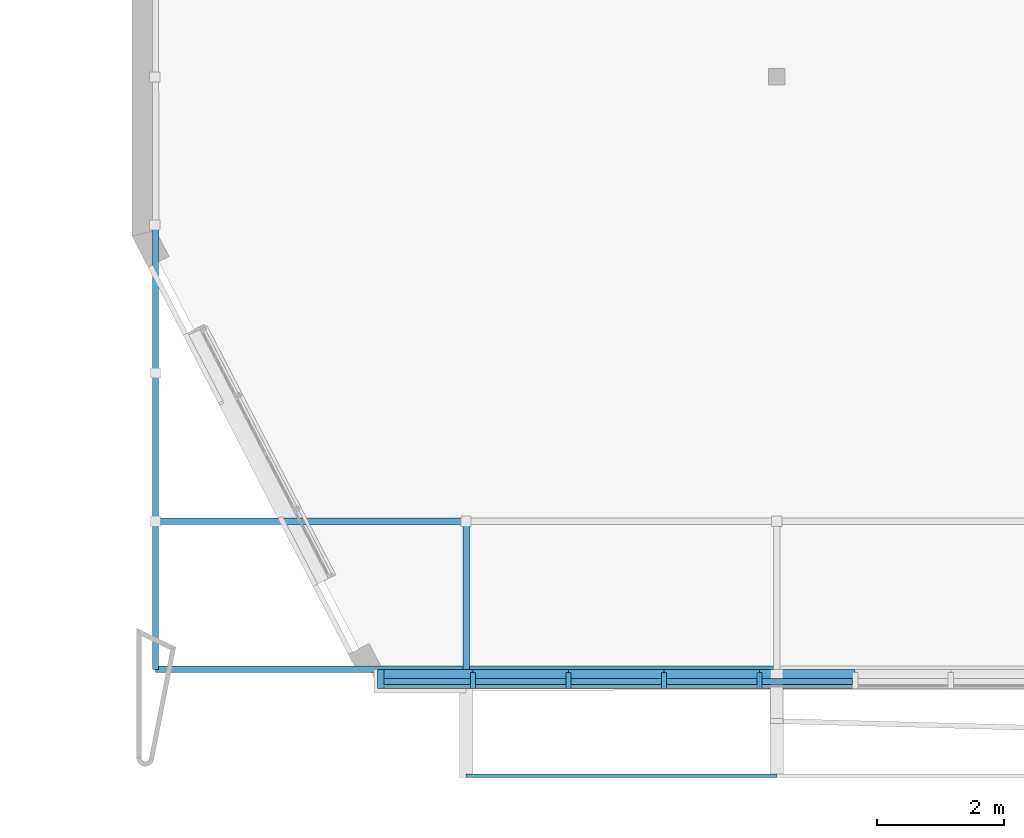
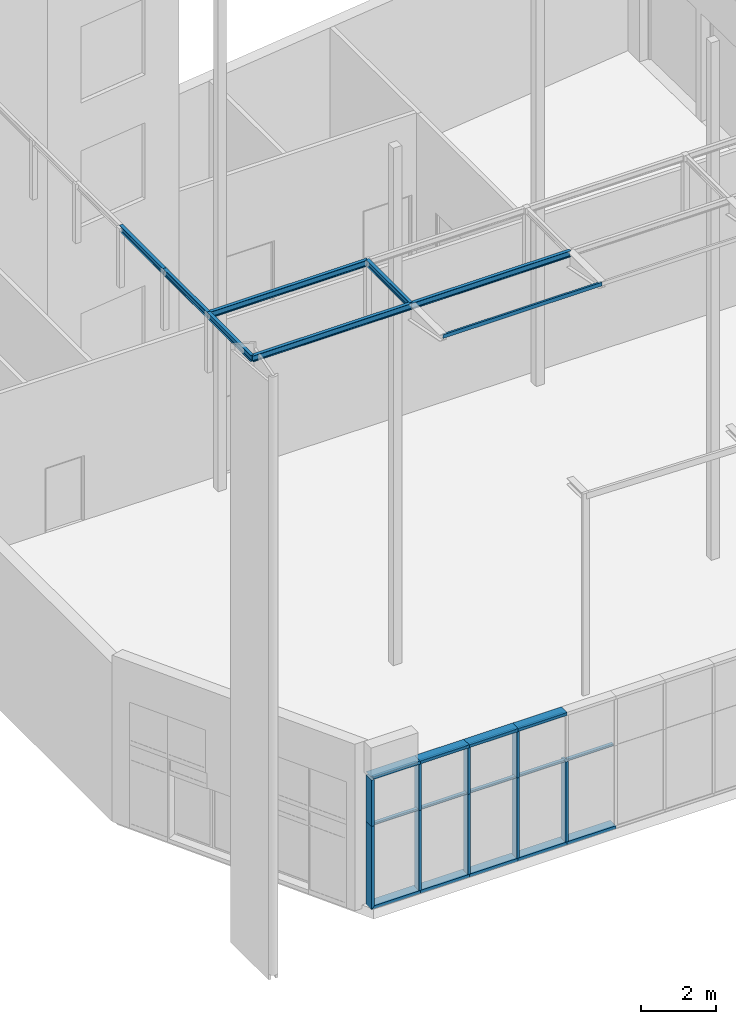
# One storey, part 5 of 40: 27 members, 8 beams, 1 element without a shape of its own.
"""IFC2X3 building model written with IfcOpenShell, lengths in metres."""

from ifc_helpers import new_model, entity, si_unit, converted_unit, money_unit, point, direction, frame, frame_2d, origin_with_axes, place, context, subcontext, project, spatial, polyline, circle_curve, parameter, trimmed, segment, composite_curve, outline, extrude, clip, halfspace, material, type_object, element, aggregate, save


model = new_model("IFC2X3")

# Units and contexts
model_context = context("Model", 3, precision=1e-05, world=origin_with_axes(), true_north=direction((0.0, 1.0)))
body_context = subcontext(model_context, "Body", "Model", "MODEL_VIEW")
ifc_project = project(units=[si_unit("LENGTHUNIT", "METRE"), si_unit("AREAUNIT", "SQUARE_METRE"), si_unit("VOLUMEUNIT", "CUBIC_METRE"), converted_unit("PLANEANGLEUNIT", "DEGREE", entity("IfcPlaneAngleMeasure", 0.0174532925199), si_unit("PLANEANGLEUNIT", "RADIAN"), dimensions=[0, 0, 0, 0, 0, 0, 0]), si_unit("SOLIDANGLEUNIT", "STERADIAN"), money_unit("EUR"), converted_unit("TIMEUNIT", "Year", entity("IfcTimeMeasure", 31556926.0), si_unit("TIMEUNIT", "SECOND"), dimensions=[0, 0, 0, 0, 0, 0, 0]), si_unit("MASSUNIT", "GRAM"), si_unit("THERMODYNAMICTEMPERATUREUNIT", "DEGREE_CELSIUS"), si_unit("LUMINOUSINTENSITYUNIT", "LUMEN")], contexts=[model_context])

# Site, building, storey
site_placement = place(None, origin_with_axes())
site = spatial("IfcSite", under=ifc_project, at=site_placement, Name="Undefined", CompositionType="ELEMENT")
building_placement = place(site_placement, origin_with_axes())
building = spatial("IfcBuilding", under=site, at=building_placement, Name="Undefined", CompositionType="ELEMENT")
storey_placement = place(building_placement, origin_with_axes())
storey = spatial("IfcBuildingStorey", under=building, at=storey_placement, Name="Rez de chauss\x8ee", CompositionType="ELEMENT", Elevation=0.0)

# Beams
ifc_material_1 = material(Name="STEEL/S235JRG2 3386696625")
beam_type_1 = type_object("IfcBeamType", Name="IPE200", PredefinedType="NOTDEFINED")
beam_1_placement = place(storey_placement, frame((4.87499999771, -4.68453151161e-06, 19.02503), z_axis=(0.0, 0.0, 1.0), x_axis=(1.0, 0.0, 0.0)))
element("IfcBeam", 1, at=beam_1_placement, inside=storey, type_object=beam_type_1, material=ifc_material_1, Name="BEAM", ObjectType="BEAM", context=body_context, shape_type="Clipping", body=[
    clip(clip(extrude(outline(composite_curve([segment(polyline([(0.05, -0.1), (0.05, -0.0915), (0.0147999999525, -0.0915)]), True, "CONTINUOUS"), segment(trimmed(circle_curve(frame_2d((0.0147999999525, -0.0795), x_axis=(-1.0, 0.0)), 0.012), [point((0.0147999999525, -0.0915)), parameter(90.0)], [point((0.0027999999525, -0.0795)), parameter(0.0)], False, "CARTESIAN"), True, "CONTINUOUS"), segment(polyline([(0.0027999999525, -0.0795), (0.0027999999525, 0.0795)]), True, "CONTINUOUS"), segment(trimmed(circle_curve(frame_2d((0.0147999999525, 0.0795), x_axis=(0.0, 1.0)), 0.012), [point((0.0027999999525, 0.0795)), parameter(90.0)], [point((0.0147999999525, 0.0915)), parameter(0.0)], False, "CARTESIAN"), True, "CONTINUOUS"), segment(polyline([(0.0147999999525, 0.0915), (0.05, 0.0915), (0.05, 0.1), (-0.05, 0.1), (-0.05, 0.0915), (-0.0147999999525, 0.0915)]), True, "CONTINUOUS"), segment(trimmed(circle_curve(frame_2d((-0.0147999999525, 0.0795), x_axis=(1.0, 0.0)), 0.012), [point((-0.0147999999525, 0.0915)), parameter(90.0)], [point((-0.0027999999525, 0.0795)), parameter(0.0)], False, "CARTESIAN"), True, "CONTINUOUS"), segment(polyline([(-0.0027999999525, 0.0795), (-0.0027999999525, -0.0795)]), True, "CONTINUOUS"), segment(trimmed(circle_curve(frame_2d((-0.0147999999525, -0.0795), x_axis=(0.0, -1.0)), 0.012), [point((-0.0027999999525, -0.0795)), parameter(90.0)], [point((-0.0147999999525, -0.0915)), parameter(0.0)], False, "CARTESIAN"), True, "CONTINUOUS"), segment(polyline([(-0.0147999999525, -0.0915), (-0.05, -0.0915), (-0.05, -0.1), (0.05, -0.1)]), True, "CONTINUOUS")], self_intersect=False)), frame((0.0, 2.32501018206, -2.79001147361e-05), z_axis=(0.0, -0.999999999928, 1.19999967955e-05), x_axis=(1.0, 0.0, 0.0)), (0.0, 0.0, 1.0), 2.32501357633), halfspace(frame((0.0, 3.39411164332e-06, 0.0), z_axis=(0.0, 0.999999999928, -1.19999967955e-05), x_axis=(0.0, 1.19999967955e-05, 0.999999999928)), True)), halfspace(frame((0.0, 2.32500339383, -2.79000332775e-05), z_axis=(0.0, -0.999999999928, 1.19999967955e-05), x_axis=(0.0, -1.19999967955e-05, -0.999999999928)), True)),
])
for number, where, z_axis, x_axis, name in (
    (2, (6.15017190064e-07, -5.48130610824e-10, 19.025), (0.0, 0.0, 1.0), (0.0, -1.0, 0.0), "Poutre"),
    (3, (4.87499938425, -4.04976183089e-10, 19.02503), (0.0, 0.0, 1.0), (0.0, -1.0, 0.0), "BEAM"),
):
    element("IfcBeam", number, at=place(storey_placement, frame(where, z_axis=z_axis, x_axis=x_axis)), inside=storey, type_object=beam_type_1, material=ifc_material_1, Name=name, ObjectType="BEAM", context=body_context, shape_type="SweptSolid", body=[
        extrude(outline(composite_curve([segment(polyline([(0.05, -0.1), (0.05, -0.0915), (0.0147999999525, -0.0915)]), True, "CONTINUOUS"), segment(trimmed(circle_curve(frame_2d((0.0147999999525, -0.0795), x_axis=(-1.0, 0.0)), 0.012), [point((0.0147999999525, -0.0915)), parameter(90.0)], [point((0.0027999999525, -0.0795)), parameter(0.0)], False, "CARTESIAN"), True, "CONTINUOUS"), segment(polyline([(0.0027999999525, -0.0795), (0.0027999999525, 0.0795)]), True, "CONTINUOUS"), segment(trimmed(circle_curve(frame_2d((0.0147999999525, 0.0795), x_axis=(0.0, 1.0)), 0.012), [point((0.0027999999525, 0.0795)), parameter(90.0)], [point((0.0147999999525, 0.0915)), parameter(0.0)], False, "CARTESIAN"), True, "CONTINUOUS"), segment(polyline([(0.0147999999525, 0.0915), (0.05, 0.0915), (0.05, 0.1), (-0.05, 0.1), (-0.05, 0.0915), (-0.0147999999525, 0.0915)]), True, "CONTINUOUS"), segment(trimmed(circle_curve(frame_2d((-0.0147999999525, 0.0795), x_axis=(1.0, 0.0)), 0.012), [point((-0.0147999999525, 0.0915)), parameter(90.0)], [point((-0.0027999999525, 0.0795)), parameter(0.0)], False, "CARTESIAN"), True, "CONTINUOUS"), segment(polyline([(-0.0027999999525, 0.0795), (-0.0027999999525, -0.0795)]), True, "CONTINUOUS"), segment(trimmed(circle_curve(frame_2d((-0.0147999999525, -0.0795), x_axis=(0.0, -1.0)), 0.012), [point((-0.0027999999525, -0.0795)), parameter(90.0)], [point((-0.0147999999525, -0.0915)), parameter(0.0)], False, "CARTESIAN"), True, "CONTINUOUS"), segment(polyline([(-0.0147999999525, -0.0915), (-0.05, -0.0915), (-0.05, -0.1), (0.05, -0.1)]), True, "CONTINUOUS")], self_intersect=False)), frame((0.0, 4.875, 0.0), z_axis=(0.0, -1.0, 0.0), x_axis=(1.0, 0.0, 0.0)), (0.0, 0.0, 1.0), 4.875),
    ])
beam_2_placement = place(storey_placement, frame((-4.80108632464e-10, 2.32499999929, 19.02503), z_axis=(0.0, 0.0, 1.0), x_axis=(-1.0, 0.0, 0.0)))
element("IfcBeam", 4, at=beam_2_placement, inside=storey, type_object=beam_type_1, material=ifc_material_1, Name="BEAM", ObjectType="BEAM", context=body_context, shape_type="SweptSolid", body=[
    extrude(outline(composite_curve([segment(polyline([(0.05, -0.1), (0.05, -0.0915), (0.0147999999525, -0.0915)]), True, "CONTINUOUS"), segment(trimmed(circle_curve(frame_2d((0.0147999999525, -0.0795), x_axis=(-1.0, 0.0)), 0.012), [point((0.0147999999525, -0.0915)), parameter(90.0)], [point((0.0027999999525, -0.0795)), parameter(0.0)], False, "CARTESIAN"), True, "CONTINUOUS"), segment(polyline([(0.0027999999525, -0.0795), (0.0027999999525, 0.0795)]), True, "CONTINUOUS"), segment(trimmed(circle_curve(frame_2d((0.0147999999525, 0.0795), x_axis=(0.0, 1.0)), 0.012), [point((0.0027999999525, 0.0795)), parameter(90.0)], [point((0.0147999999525, 0.0915)), parameter(0.0)], False, "CARTESIAN"), True, "CONTINUOUS"), segment(polyline([(0.0147999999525, 0.0915), (0.05, 0.0915), (0.05, 0.1), (-0.05, 0.1), (-0.05, 0.0915), (-0.0147999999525, 0.0915)]), True, "CONTINUOUS"), segment(trimmed(circle_curve(frame_2d((-0.0147999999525, 0.0795), x_axis=(1.0, 0.0)), 0.012), [point((-0.0147999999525, 0.0915)), parameter(90.0)], [point((-0.0027999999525, 0.0795)), parameter(0.0)], False, "CARTESIAN"), True, "CONTINUOUS"), segment(polyline([(-0.0027999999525, 0.0795), (-0.0027999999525, -0.0795)]), True, "CONTINUOUS"), segment(trimmed(circle_curve(frame_2d((-0.0147999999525, -0.0795), x_axis=(0.0, -1.0)), 0.012), [point((-0.0027999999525, -0.0795)), parameter(90.0)], [point((-0.0147999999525, -0.0915)), parameter(0.0)], False, "CARTESIAN"), True, "CONTINUOUS"), segment(polyline([(-0.0147999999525, -0.0915), (-0.05, -0.0915), (-0.05, -0.1), (0.05, -0.1)]), True, "CONTINUOUS")], self_intersect=False)), frame((0.0, 2.32499956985, 0.0), z_axis=(0.0, -1.0, 0.0), x_axis=(1.0, 0.0, 0.0)), (0.0, 0.0, 1.0), 2.32499956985),
])
beam_3_placement = place(storey_placement, frame((-2.28343566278e-10, 2.32499999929, 19.025), z_axis=(0.0, 0.0, 1.0), x_axis=(0.0, -1.0, 0.0)))
element("IfcBeam", 5, at=beam_3_placement, inside=storey, type_object=beam_type_1, material=ifc_material_1, Name="Poutre", ObjectType="BEAM", context=body_context, shape_type="SweptSolid", body=[
    extrude(outline(composite_curve([segment(polyline([(0.05, -0.1), (0.05, -0.0915), (0.0147999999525, -0.0915)]), True, "CONTINUOUS"), segment(trimmed(circle_curve(frame_2d((0.0147999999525, -0.0795), x_axis=(-1.0, 0.0)), 0.012), [point((0.0147999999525, -0.0915)), parameter(90.0)], [point((0.0027999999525, -0.0795)), parameter(0.0)], False, "CARTESIAN"), True, "CONTINUOUS"), segment(polyline([(0.0027999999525, -0.0795), (0.0027999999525, 0.0795)]), True, "CONTINUOUS"), segment(trimmed(circle_curve(frame_2d((0.0147999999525, 0.0795), x_axis=(0.0, 1.0)), 0.012), [point((0.0027999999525, 0.0795)), parameter(90.0)], [point((0.0147999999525, 0.0915)), parameter(0.0)], False, "CARTESIAN"), True, "CONTINUOUS"), segment(polyline([(0.0147999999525, 0.0915), (0.05, 0.0915), (0.05, 0.1), (-0.05, 0.1), (-0.05, 0.0915), (-0.0147999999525, 0.0915)]), True, "CONTINUOUS"), segment(trimmed(circle_curve(frame_2d((-0.0147999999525, 0.0795), x_axis=(1.0, 0.0)), 0.012), [point((-0.0147999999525, 0.0915)), parameter(90.0)], [point((-0.0027999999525, 0.0795)), parameter(0.0)], False, "CARTESIAN"), True, "CONTINUOUS"), segment(polyline([(-0.0027999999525, 0.0795), (-0.0027999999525, -0.0795)]), True, "CONTINUOUS"), segment(trimmed(circle_curve(frame_2d((-0.0147999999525, -0.0795), x_axis=(0.0, -1.0)), 0.012), [point((-0.0027999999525, -0.0795)), parameter(90.0)], [point((-0.0147999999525, -0.0915)), parameter(0.0)], False, "CARTESIAN"), True, "CONTINUOUS"), segment(polyline([(-0.0147999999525, -0.0915), (-0.05, -0.0915), (-0.05, -0.1), (0.05, -0.1)]), True, "CONTINUOUS")], self_intersect=False)), frame((0.0, 4.87500000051, 0.0), z_axis=(0.0, -1.0, 0.0), x_axis=(1.0, 0.0, 0.0)), (0.0, 0.0, 1.0), 4.87500000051),
])
beam_type_2 = type_object("IfcBeamType", Name="UPE120", PredefinedType="NOTDEFINED")
beam_4_placement = place(storey_placement, frame((4.87499951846, -1.6700000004, 19.045), z_axis=(0.0, 0.0, 1.0), x_axis=(0.0, -1.0, 0.0)))
element("IfcBeam", 6, at=beam_4_placement, inside=storey, type_object=beam_type_2, material=ifc_material_1, Name="Poutre", ObjectType="BEAM", context=body_context, shape_type="SweptSolid", body=[
    extrude(outline(composite_curve([segment(polyline([(-0.03, -0.06), (0.03, -0.06), (0.03, -0.052), (-0.013, -0.052)]), True, "CONTINUOUS"), segment(trimmed(circle_curve(frame_2d((-0.013, -0.04), x_axis=(-1.0, 0.0)), 0.012), [point((-0.013, -0.052)), parameter(90.0)], [point((-0.025, -0.04)), parameter(0.0)], False, "CARTESIAN"), True, "CONTINUOUS"), segment(polyline([(-0.025, -0.04), (-0.025, 0.04)]), True, "CONTINUOUS"), segment(trimmed(circle_curve(frame_2d((-0.013, 0.04), x_axis=(0.0, 1.0)), 0.012), [point((-0.025, 0.04)), parameter(90.0)], [point((-0.013, 0.052)), parameter(0.0)], False, "CARTESIAN"), True, "CONTINUOUS"), segment(polyline([(-0.013, 0.052), (0.03, 0.052), (0.03, 0.06), (-0.03, 0.06), (-0.03, -0.06)]), True, "CONTINUOUS")], self_intersect=False)), frame((0.0, 4.87500048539, 0.0), z_axis=(0.0, -1.0, 0.0), x_axis=(-1.0, 0.0, 0.0)), (0.0, 0.0, 1.0), 4.87500048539),
])
beam_type_3 = type_object("IfcBeamType", Name="IPE200 0000000000 100 x 200", PredefinedType="NOTDEFINED")
beam_5_placement = place(storey_placement, frame((-2.28343423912e-10, 4.64999999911, 19.02503), z_axis=(0.0, 0.0, 1.0), x_axis=(1.0, 0.0, 0.0)))
element("IfcBeam", 7, at=beam_5_placement, inside=storey, type_object=beam_type_3, material=ifc_material_1, Name="BEAM", ObjectType="BEAM", context=body_context, shape_type="SweptSolid", body=[
    extrude(outline(composite_curve([segment(polyline([(0.05, -0.1), (0.05, -0.0915), (0.0147999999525, -0.0915)]), True, "CONTINUOUS"), segment(trimmed(circle_curve(frame_2d((0.0147999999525, -0.0795), x_axis=(-1.0, 0.0)), 0.012), [point((0.0147999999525, -0.0915)), parameter(90.0)], [point((0.0027999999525, -0.0795)), parameter(0.0)], False, "CARTESIAN"), True, "CONTINUOUS"), segment(polyline([(0.0027999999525, -0.0795), (0.0027999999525, 0.0795)]), True, "CONTINUOUS"), segment(trimmed(circle_curve(frame_2d((0.0147999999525, 0.0795), x_axis=(0.0, 1.0)), 0.012), [point((0.0027999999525, 0.0795)), parameter(90.0)], [point((0.0147999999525, 0.0915)), parameter(0.0)], False, "CARTESIAN"), True, "CONTINUOUS"), segment(polyline([(0.0147999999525, 0.0915), (0.05, 0.0915), (0.05, 0.1), (-0.05, 0.1), (-0.05, 0.0915), (-0.0147999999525, 0.0915)]), True, "CONTINUOUS"), segment(trimmed(circle_curve(frame_2d((-0.0147999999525, 0.0795), x_axis=(1.0, 0.0)), 0.012), [point((-0.0147999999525, 0.0915)), parameter(90.0)], [point((-0.0027999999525, 0.0795)), parameter(0.0)], False, "CARTESIAN"), True, "CONTINUOUS"), segment(polyline([(-0.0027999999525, 0.0795), (-0.0027999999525, -0.0795)]), True, "CONTINUOUS"), segment(trimmed(circle_curve(frame_2d((-0.0147999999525, -0.0795), x_axis=(0.0, -1.0)), 0.012), [point((-0.0027999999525, -0.0795)), parameter(90.0)], [point((-0.0147999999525, -0.0915)), parameter(0.0)], False, "CARTESIAN"), True, "CONTINUOUS"), segment(polyline([(-0.0147999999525, -0.0915), (-0.05, -0.0915), (-0.05, -0.1), (0.05, -0.1)]), True, "CONTINUOUS")], self_intersect=False)), frame((0.0, 2.32499531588, 0.0), z_axis=(0.0, -1.0, 0.0), x_axis=(1.0, 0.0, 0.0)), (0.0, 0.0, 1.0), 2.32499531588),
])
beam_6_placement = place(storey_placement, frame((-2.28343566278e-10, 2.32499999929, 19.02503), z_axis=(0.0, 0.0, 1.0), x_axis=(1.0, 0.0, 0.0)))
element("IfcBeam", 8, at=beam_6_placement, inside=storey, type_object=beam_type_3, material=ifc_material_1, Name="BEAM", ObjectType="BEAM", context=body_context, shape_type="SweptSolid", body=[
    extrude(outline(composite_curve([segment(polyline([(0.05, -0.1), (0.05, -0.0915), (0.0147999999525, -0.0915)]), True, "CONTINUOUS"), segment(trimmed(circle_curve(frame_2d((0.0147999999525, -0.0795), x_axis=(-1.0, 0.0)), 0.012), [point((0.0147999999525, -0.0915)), parameter(90.0)], [point((0.0027999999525, -0.0795)), parameter(0.0)], False, "CARTESIAN"), True, "CONTINUOUS"), segment(polyline([(0.0027999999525, -0.0795), (0.0027999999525, 0.0795)]), True, "CONTINUOUS"), segment(trimmed(circle_curve(frame_2d((0.0147999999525, 0.0795), x_axis=(0.0, 1.0)), 0.012), [point((0.0027999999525, 0.0795)), parameter(90.0)], [point((0.0147999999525, 0.0915)), parameter(0.0)], False, "CARTESIAN"), True, "CONTINUOUS"), segment(polyline([(0.0147999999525, 0.0915), (0.05, 0.0915), (0.05, 0.1), (-0.05, 0.1), (-0.05, 0.0915), (-0.0147999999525, 0.0915)]), True, "CONTINUOUS"), segment(trimmed(circle_curve(frame_2d((-0.0147999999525, 0.0795), x_axis=(1.0, 0.0)), 0.012), [point((-0.0147999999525, 0.0915)), parameter(90.0)], [point((-0.0027999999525, 0.0795)), parameter(0.0)], False, "CARTESIAN"), True, "CONTINUOUS"), segment(polyline([(-0.0027999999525, 0.0795), (-0.0027999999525, -0.0795)]), True, "CONTINUOUS"), segment(trimmed(circle_curve(frame_2d((-0.0147999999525, -0.0795), x_axis=(0.0, -1.0)), 0.012), [point((-0.0027999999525, -0.0795)), parameter(90.0)], [point((-0.0147999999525, -0.0915)), parameter(0.0)], False, "CARTESIAN"), True, "CONTINUOUS"), segment(polyline([(-0.0147999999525, -0.0915), (-0.05, -0.0915), (-0.05, -0.1), (0.05, -0.1)]), True, "CONTINUOUS")], self_intersect=False)), frame((0.0, 2.32499999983, 0.0), z_axis=(0.0, -1.0, 0.0), x_axis=(1.0, 0.0, 0.0)), (0.0, 0.0, 1.0), 2.32499999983),
])

# Curtain wall, members
curtain_wall_type = type_object("IfcCurtainWallType", Name="Type de mur-rideau", PredefinedType="NOTDEFINED")
curtain_wall_placement = place(storey_placement, frame((61.0415862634, -0.249999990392, 0.1), z_axis=(0.0, 0.0, 1.0), x_axis=(1.0, 0.0, 0.0)))
curtain_wall = element("IfcCurtainWall", 9, at=curtain_wall_placement, inside=storey, type_object=curtain_wall_type, Name="CurtainWall_02", ObjectType="CURTAIN WALL")
ifc_material_2 = material(Name="25 % 359672764")
member_type_1 = type_object("IfcMemberType", Name="Cadre 100 x 300", PredefinedType="NOTDEFINED")
member_1_placement = place(curtain_wall_placement, frame((-56.0584137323, 9.64581338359e-07, 0.0), z_axis=(1.0, -1.72067183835e-08, 0.0), x_axis=(0.0, 0.0, 1.0)))
member_1 = element("IfcMember", 10, at=member_1_placement, type_object=member_type_1, material=ifc_material_2, Name="Frame-Bnd-942", context=body_context, shape_type="SweptSolid", body=[
    extrude(outline(polyline([(-0.25, -0.1), (0.05, -0.1), (0.05, 0.0), (-0.25, 0.0), (-0.25, -0.1)])), frame((0.0, 0.0, 0.0), z_axis=(0.0, 0.0, 1.0), x_axis=(0.0, 1.0, 0.0)), (0.0, 0.0, 1.0), 1.5),
])
member_2_placement = place(curtain_wall_placement, frame((-54.5584137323, 9.38771260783e-07, 0.0), z_axis=(1.0, -1.7206718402e-08, 0.0), x_axis=(0.0, 0.0, 1.0)))
member_2 = element("IfcMember", 11, at=member_2_placement, type_object=member_type_1, material=ifc_material_2, Name="Frame-Bnd-941", context=body_context, shape_type="SweptSolid", body=[
    extrude(outline(polyline([(-0.25, -0.1), (0.05, -0.1), (0.05, 0.0), (-0.25, 0.0), (-0.25, -0.1)])), frame((0.0, 0.0, 0.0), z_axis=(0.0, 0.0, 1.0), x_axis=(0.0, 1.0, 0.0)), (0.0, 0.0, 1.0), 1.5),
])
member_3_placement = place(curtain_wall_placement, frame((-53.0584137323, 9.1296118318e-07, 0.0), z_axis=(1.0, -1.72067183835e-08, 0.0), x_axis=(0.0, 0.0, 1.0)))
member_3 = element("IfcMember", 12, at=member_3_placement, type_object=member_type_1, material=ifc_material_2, Name="Frame-Bnd-940", context=body_context, shape_type="SweptSolid", body=[
    extrude(outline(polyline([(-0.25, -0.1), (0.05, -0.1), (0.05, 0.0), (-0.25, 0.0), (-0.25, -0.1)])), frame((0.0, 0.0, 0.0), z_axis=(0.0, 0.0, 1.0), x_axis=(0.0, 1.0, 0.0)), (0.0, 0.0, 1.0), 1.5),
])
member_4_placement = place(curtain_wall_placement, frame((-51.5584137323, 8.87151105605e-07, 0.0), z_axis=(1.0, -1.72067183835e-08, 0.0), x_axis=(0.0, 0.0, 1.0)))
member_4 = element("IfcMember", 13, at=member_4_placement, type_object=member_type_1, material=ifc_material_2, Name="Frame-Bnd-939", context=body_context, shape_type="SweptSolid", body=[
    extrude(outline(polyline([(-0.25, -0.1), (0.05, -0.1), (0.05, 0.0), (-0.25, 0.0), (-0.25, -0.1)])), frame((0.0, 0.0, 0.0), z_axis=(0.0, 0.0, 1.0), x_axis=(0.0, 1.0, 0.0)), (0.0, 0.0, 1.0), 1.5),
])
member_5_placement = place(curtain_wall_placement, frame((-57.5584137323, 9.90391415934e-07, 0.0), z_axis=(0.0, 0.0, 1.0), x_axis=(-1.0, 1.72067183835e-08, 0.0)))
member_5 = element("IfcMember", 14, at=member_5_placement, type_object=member_type_1, material=ifc_material_2, Name="Frame-Bnd-499", context=body_context, shape_type="Clipping", body=[
    clip(extrude(outline(polyline([(4.30167945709e-09, 0.25), (-8.60335802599e-10, -0.05), (0.0999999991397, -0.0500000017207), (0.100000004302, 0.249999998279), (4.30167945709e-09, 0.25)])), frame((0.0, 0.0, 0.0), z_axis=(0.0, 0.0, 1.0), x_axis=(-1.0, -1.72067183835e-08, 0.0)), (0.0, 0.0, 1.0), 2.7), halfspace(frame((0.0, 0.0, 0.0), z_axis=(0.707106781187, 0.0, 0.707106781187), x_axis=(0.0, -1.0, 0.0)), True)),
])
member_6_placement = place(curtain_wall_placement, frame((-57.5584137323, 9.90391415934e-07, 0.0), z_axis=(1.0, -1.72067183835e-08, 0.0), x_axis=(0.0, 0.0, 1.0)))
member_6 = element("IfcMember", 15, at=member_6_placement, type_object=member_type_1, material=ifc_material_2, Name="Frame-Bnd-943", context=body_context, shape_type="Clipping", body=[
    clip(extrude(outline(polyline([(-0.25, -0.1), (0.05, -0.1), (0.05, 0.0), (-0.25, 0.0), (-0.25, -0.1)])), frame((0.0, 0.0, 0.0), z_axis=(0.0, 0.0, 1.0), x_axis=(0.0, 1.0, 0.0)), (0.0, 0.0, 1.0), 1.5), halfspace(frame((0.0, 0.0, 0.0), z_axis=(-0.707106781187, 0.0, 0.707106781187), x_axis=(0.0, -1.0, 0.0)), True)),
])
member_7_placement = place(curtain_wall_placement, frame((-57.5584137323, 9.90391415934e-07, 2.7), z_axis=(0.0, 0.0, 1.0), x_axis=(-1.0, 1.72067183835e-08, 0.0)))
member_7 = element("IfcMember", 16, at=member_7_placement, type_object=member_type_1, material=ifc_material_2, Name="Frame-Bnd-499", context=body_context, shape_type="SweptSolid", body=[
    extrude(outline(polyline([(4.30167945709e-09, 0.25), (-8.60335802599e-10, -0.05), (0.0999999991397, -0.0500000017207), (0.100000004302, 0.249999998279), (4.30167945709e-09, 0.25)])), frame((0.0, 0.0, 0.0), z_axis=(0.0, 0.0, 1.0), x_axis=(-1.0, -1.72067183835e-08, 0.0)), (0.0, 0.0, 1.0), 1.5),
])
member_8_placement = place(curtain_wall_placement, frame((-51.5584137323, 8.87151105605e-07, 4.3), z_axis=(-1.0, 1.72067183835e-08, 0.0), x_axis=(0.0, 0.0, -1.0)))
member_8 = element("IfcMember", 17, at=member_8_placement, type_object=member_type_1, material=ifc_material_2, Name="Frame-Bnd-778", context=body_context, shape_type="SweptSolid", body=[
    extrude(outline(polyline([(0.25, 0.1), (-0.05, 0.1), (-0.05, 0.0), (0.25, 0.0), (0.25, 0.1)])), frame((0.0, 0.0, 0.0), z_axis=(0.0, 0.0, 1.0), x_axis=(0.0, -1.0, 0.0)), (0.0, 0.0, 1.0), 1.5),
])
member_9_placement = place(curtain_wall_placement, frame((-53.0584137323, 9.1296118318e-07, 4.3), z_axis=(-1.0, 1.7206718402e-08, 0.0), x_axis=(0.0, 0.0, -1.0)))
member_9 = element("IfcMember", 18, at=member_9_placement, type_object=member_type_1, material=ifc_material_2, Name="Frame-Bnd-777", context=body_context, shape_type="SweptSolid", body=[
    extrude(outline(polyline([(0.25, 0.1), (-0.05, 0.1), (-0.05, 0.0), (0.25, 0.0), (0.25, 0.1)])), frame((0.0, 0.0, 0.0), z_axis=(0.0, 0.0, 1.0), x_axis=(0.0, -1.0, 0.0)), (0.0, 0.0, 1.0), 1.5),
])
member_10_placement = place(curtain_wall_placement, frame((-54.5584137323, 9.38771260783e-07, 4.3), z_axis=(-1.0, 1.72067183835e-08, 0.0), x_axis=(0.0, 0.0, -1.0)))
member_10 = element("IfcMember", 19, at=member_10_placement, type_object=member_type_1, material=ifc_material_2, Name="Frame-Bnd-776", context=body_context, shape_type="SweptSolid", body=[
    extrude(outline(polyline([(0.25, 0.1), (-0.05, 0.1), (-0.05, 0.0), (0.25, 0.0), (0.25, 0.1)])), frame((0.0, 0.0, 0.0), z_axis=(0.0, 0.0, 1.0), x_axis=(0.0, -1.0, 0.0)), (0.0, 0.0, 1.0), 1.5),
])
member_11_placement = place(curtain_wall_placement, frame((-56.0584137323, 9.64581338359e-07, 4.3), z_axis=(-1.0, 1.72067183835e-08, 0.0), x_axis=(0.0, 0.0, -1.0)))
member_11 = element("IfcMember", 20, at=member_11_placement, type_object=member_type_1, material=ifc_material_2, Name="Frame-Bnd-775", context=body_context, shape_type="Clipping", body=[
    clip(extrude(outline(polyline([(0.25, 0.1), (-0.05, 0.1), (-0.05, 0.0), (0.25, 0.0), (0.25, 0.1)])), frame((0.0, 0.0, 0.0), z_axis=(0.0, 0.0, 1.0), x_axis=(0.0, -1.0, 0.0)), (0.0, 0.0, 1.0), 1.5), halfspace(frame((0.75, 0.0, 0.75), z_axis=(-0.707106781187, 0.0, -0.707106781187), x_axis=(0.0, 1.0, 0.0)), True)),
])
member_type_2 = type_object("IfcMemberType", Name="Montant 80 x 250", PredefinedType="NOTDEFINED")
member_12_placement = place(curtain_wall_placement, frame((-56.0584137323, 9.64581338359e-07, 0.0), z_axis=(0.0, 0.0, 1.0), x_axis=(-1.0, 1.72067183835e-08, 0.0)))
member_12 = element("IfcMember", 21, at=member_12_placement, type_object=member_type_2, material=ifc_material_2, Name="Frame-Mll-283", context=body_context, shape_type="SweptSolid", body=[
    extrude(outline(polyline([(-0.0399999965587, 0.200000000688), (-0.0400000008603, -0.0499999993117), (0.0399999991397, -0.0500000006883), (0.0400000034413, 0.199999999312), (-0.0399999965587, 0.200000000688)])), frame((0.0, 0.0, 0.1), z_axis=(0.0, 0.0, 1.0), x_axis=(-1.0, -1.72067183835e-08, 0.0)), (0.0, 0.0, 1.0), 2.6),
])
member_13_placement = place(curtain_wall_placement, frame((-54.5584137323, 9.38771260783e-07, 0.0), z_axis=(0.0, 0.0, 1.0), x_axis=(-1.0, 1.72067183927e-08, 0.0)))
member_13 = element("IfcMember", 22, at=member_13_placement, type_object=member_type_2, material=ifc_material_2, Name="Frame-Mll-283", context=body_context, shape_type="SweptSolid", body=[
    extrude(outline(polyline([(-0.0399999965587, 0.200000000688), (-0.0400000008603, -0.0499999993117), (0.0399999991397, -0.0500000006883), (0.0400000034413, 0.199999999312), (-0.0399999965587, 0.200000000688)])), frame((0.0, 0.0, 0.1), z_axis=(0.0, 0.0, 1.0), x_axis=(-1.0, -1.72067183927e-08, 0.0)), (0.0, 0.0, 1.0), 2.6),
])
member_14_placement = place(curtain_wall_placement, frame((-53.0584137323, 9.1296118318e-07, 0.0), z_axis=(0.0, 0.0, 1.0), x_axis=(-1.0, 1.72067183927e-08, 0.0)))
member_14 = element("IfcMember", 23, at=member_14_placement, type_object=member_type_2, material=ifc_material_2, Name="Frame-Mll-283", context=body_context, shape_type="SweptSolid", body=[
    extrude(outline(polyline([(-0.0399999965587, 0.200000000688), (-0.0400000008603, -0.0499999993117), (0.0399999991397, -0.0500000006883), (0.0400000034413, 0.199999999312), (-0.0399999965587, 0.200000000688)])), frame((0.0, 0.0, 0.1), z_axis=(0.0, 0.0, 1.0), x_axis=(-1.0, -1.72067183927e-08, 0.0)), (0.0, 0.0, 1.0), 2.6),
])
member_15_placement = place(curtain_wall_placement, frame((-51.5584137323, 8.87151105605e-07, 0.0), z_axis=(0.0, 0.0, 1.0), x_axis=(-1.0, 1.72067183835e-08, 0.0)))
member_15 = element("IfcMember", 24, at=member_15_placement, type_object=member_type_2, material=ifc_material_2, Name="Frame-Mll-283", context=body_context, shape_type="SweptSolid", body=[
    extrude(outline(polyline([(-0.0399999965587, 0.200000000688), (-0.0400000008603, -0.0499999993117), (0.0399999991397, -0.0500000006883), (0.0400000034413, 0.199999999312), (-0.0399999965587, 0.200000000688)])), frame((0.0, 0.0, 0.1), z_axis=(0.0, 0.0, 1.0), x_axis=(-1.0, -1.72067183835e-08, 0.0)), (0.0, 0.0, 1.0), 2.6),
])
member_16_placement = place(curtain_wall_placement, frame((-56.0584137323, 9.64581338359e-07, 2.7), z_axis=(0.0, 0.0, 1.0), x_axis=(-1.0, 1.72067183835e-08, 0.0)))
member_16 = element("IfcMember", 25, at=member_16_placement, type_object=member_type_2, material=ifc_material_2, Name="Frame-Mll-651", context=body_context, shape_type="SweptSolid", body=[
    extrude(outline(polyline([(-0.0399999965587, 0.200000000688), (-0.0400000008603, -0.0499999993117), (0.0399999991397, -0.0500000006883), (0.0400000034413, 0.199999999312), (-0.0399999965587, 0.200000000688)])), frame((0.0, 0.0, 0.0), z_axis=(0.0, 0.0, 1.0), x_axis=(-1.0, -1.72067183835e-08, 0.0)), (0.0, 0.0, 1.0), 1.5),
])
member_17_placement = place(curtain_wall_placement, frame((-54.5584137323, 9.38771260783e-07, 2.7), z_axis=(0.0, 0.0, 1.0), x_axis=(-1.0, 1.72067183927e-08, 0.0)))
member_17 = element("IfcMember", 26, at=member_17_placement, type_object=member_type_2, material=ifc_material_2, Name="Frame-Mll-652", context=body_context, shape_type="SweptSolid", body=[
    extrude(outline(polyline([(-0.0399999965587, 0.200000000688), (-0.0400000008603, -0.0499999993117), (0.0399999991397, -0.0500000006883), (0.0400000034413, 0.199999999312), (-0.0399999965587, 0.200000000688)])), frame((0.0, 0.0, 0.0), z_axis=(0.0, 0.0, 1.0), x_axis=(-1.0, -1.72067183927e-08, 0.0)), (0.0, 0.0, 1.0), 1.5),
])
member_18_placement = place(curtain_wall_placement, frame((-53.0584137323, 9.1296118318e-07, 2.7), z_axis=(0.0, 0.0, 1.0), x_axis=(-1.0, 1.72067183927e-08, 0.0)))
member_18 = element("IfcMember", 27, at=member_18_placement, type_object=member_type_2, material=ifc_material_2, Name="Frame-Mll-653", context=body_context, shape_type="SweptSolid", body=[
    extrude(outline(polyline([(-0.0399999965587, 0.200000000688), (-0.0400000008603, -0.0499999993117), (0.0399999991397, -0.0500000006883), (0.0400000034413, 0.199999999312), (-0.0399999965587, 0.200000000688)])), frame((0.0, 0.0, 0.0), z_axis=(0.0, 0.0, 1.0), x_axis=(-1.0, -1.72067183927e-08, 0.0)), (0.0, 0.0, 1.0), 1.5),
])
member_type_3 = type_object("IfcMemberType", Name="Traverse 60 x 100", PredefinedType="NOTDEFINED")
member_19_placement = place(curtain_wall_placement, frame((-57.5584137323, 9.90391415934e-07, 2.7), z_axis=(1.0, -1.72067183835e-08, 0.0), x_axis=(0.0, 0.0, 1.0)))
member_19 = element("IfcMember", 28, at=member_19_placement, type_object=member_type_3, material=ifc_material_2, Name="Frame-Trs-922", context=body_context, shape_type="SweptSolid", body=[
    extrude(outline(polyline([(-0.11, -0.03), (-0.01, -0.03), (-0.01, 0.03), (-0.11, 0.03), (-0.11, -0.03)])), frame((0.0, 0.0, 0.1), z_axis=(0.0, 0.0, 1.0), x_axis=(0.0, 1.0, 0.0)), (0.0, 0.0, 1.0), 1.36),
])
member_20_placement = place(curtain_wall_placement, frame((-56.0584137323, 9.64581338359e-07, 2.7), z_axis=(1.0, -1.72067183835e-08, 0.0), x_axis=(0.0, 0.0, 1.0)))
member_20 = element("IfcMember", 29, at=member_20_placement, type_object=member_type_3, material=ifc_material_2, Name="Frame-Trs-922", context=body_context, shape_type="SweptSolid", body=[
    extrude(outline(polyline([(-0.11, -0.03), (-0.01, -0.03), (-0.01, 0.03), (-0.11, 0.03), (-0.11, -0.03)])), frame((0.0, 0.0, 0.04), z_axis=(0.0, 0.0, 1.0), x_axis=(0.0, 1.0, 0.0)), (0.0, 0.0, 1.0), 1.42),
])
member_21_placement = place(curtain_wall_placement, frame((-54.5584137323, 9.38771260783e-07, 2.7), z_axis=(1.0, -1.7206718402e-08, 0.0), x_axis=(0.0, 0.0, 1.0)))
member_21 = element("IfcMember", 30, at=member_21_placement, type_object=member_type_3, material=ifc_material_2, Name="Frame-Trs-922", context=body_context, shape_type="SweptSolid", body=[
    extrude(outline(polyline([(-0.11, -0.03), (-0.01, -0.03), (-0.01, 0.03), (-0.11, 0.03), (-0.11, -0.03)])), frame((0.0, 0.0, 0.04), z_axis=(0.0, 0.0, 1.0), x_axis=(0.0, 1.0, 0.0)), (0.0, 0.0, 1.0), 1.42),
])
member_22_placement = place(curtain_wall_placement, frame((-53.0584137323, 9.1296118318e-07, 2.7), z_axis=(1.0, -1.72067183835e-08, 0.0), x_axis=(0.0, 0.0, 1.0)))
member_22 = element("IfcMember", 31, at=member_22_placement, type_object=member_type_3, material=ifc_material_2, Name="Frame-Trs-922", context=body_context, shape_type="SweptSolid", body=[
    extrude(outline(polyline([(-0.11, -0.03), (-0.01, -0.03), (-0.01, 0.03), (-0.11, 0.03), (-0.11, -0.03)])), frame((0.0, 0.0, 0.04), z_axis=(0.0, 0.0, 1.0), x_axis=(0.0, 1.0, 0.0)), (0.0, 0.0, 1.0), 1.42),
])
member_23_placement = place(curtain_wall_placement, frame((-51.5584137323, 8.87151105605e-07, 2.7), z_axis=(1.0, -1.72067183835e-08, 0.0), x_axis=(0.0, 0.0, 1.0)))
member_23 = element("IfcMember", 32, at=member_23_placement, type_object=member_type_3, material=ifc_material_2, Name="Frame-Trs-922", context=body_context, shape_type="SweptSolid", body=[
    extrude(outline(polyline([(-0.11, -0.03), (-0.01, -0.03), (-0.01, 0.03), (-0.11, 0.03), (-0.11, -0.03)])), frame((0.0, 0.0, 0.04), z_axis=(0.0, 0.0, 1.0), x_axis=(0.0, 1.0, 0.0)), (0.0, 0.0, 1.0), 1.42),
])
member_24_placement = place(curtain_wall_placement, frame((-57.5584137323, 9.90391415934e-07, 4.2), z_axis=(1.0, -1.72067183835e-08, 0.0), x_axis=(0.0, 0.0, 1.0)))
member_24 = element("IfcMember", 33, at=member_24_placement, type_object=member_type_3, material=ifc_material_2, Name="Frame-Trs-227", context=body_context, shape_type="SweptSolid", body=[
    extrude(outline(polyline([(-0.11, -0.03), (-0.01, -0.03), (-0.01, 0.03), (-0.11, 0.03), (-0.11, -0.03)])), frame((0.0, 0.0, 0.1), z_axis=(0.0, 0.0, 1.0), x_axis=(0.0, 1.0, 0.0)), (0.0, 0.0, 1.0), 1.36),
])
member_25_placement = place(curtain_wall_placement, frame((-56.0584137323, 9.64581338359e-07, 4.2), z_axis=(1.0, -1.72067183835e-08, 0.0), x_axis=(0.0, 0.0, 1.0)))
member_25 = element("IfcMember", 34, at=member_25_placement, type_object=member_type_3, material=ifc_material_2, Name="Frame-Trs-227", context=body_context, shape_type="SweptSolid", body=[
    extrude(outline(polyline([(-0.11, -0.03), (-0.01, -0.03), (-0.01, 0.03), (-0.11, 0.03), (-0.11, -0.03)])), frame((0.0, 0.0, 0.04), z_axis=(0.0, 0.0, 1.0), x_axis=(0.0, 1.0, 0.0)), (0.0, 0.0, 1.0), 1.42),
])
member_26_placement = place(curtain_wall_placement, frame((-54.5584137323, 9.38771260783e-07, 4.2), z_axis=(1.0, -1.7206718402e-08, 0.0), x_axis=(0.0, 0.0, 1.0)))
member_26 = element("IfcMember", 35, at=member_26_placement, type_object=member_type_3, material=ifc_material_2, Name="Frame-Trs-227", context=body_context, shape_type="SweptSolid", body=[
    extrude(outline(polyline([(-0.11, -0.03), (-0.01, -0.03), (-0.01, 0.03), (-0.11, 0.03), (-0.11, -0.03)])), frame((0.0, 0.0, 0.04), z_axis=(0.0, 0.0, 1.0), x_axis=(0.0, 1.0, 0.0)), (0.0, 0.0, 1.0), 1.42),
])
member_27_placement = place(curtain_wall_placement, frame((-53.0584137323, 9.1296118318e-07, 4.2), z_axis=(1.0, -1.72067183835e-08, 0.0), x_axis=(0.0, 0.0, 1.0)))
member_27 = element("IfcMember", 36, at=member_27_placement, type_object=member_type_3, material=ifc_material_2, Name="Frame-Trs-227", context=body_context, shape_type="SweptSolid", body=[
    extrude(outline(polyline([(-0.11, -0.03), (-0.01, -0.03), (-0.01, 0.03), (-0.11, 0.03), (-0.11, -0.03)])), frame((0.0, 0.0, 0.04), z_axis=(0.0, 0.0, 1.0), x_axis=(0.0, 1.0, 0.0)), (0.0, 0.0, 1.0), 1.42),
])
aggregate(curtain_wall, [member_1, member_2, member_12, member_13, member_3, member_14, member_15, member_4, member_5, member_19, member_20, member_21, member_22, member_23, member_6, member_7, member_16, member_17, member_18, member_24, member_25, member_26, member_27, member_8, member_9, member_10, member_11])

save(model, "model.ifc")
